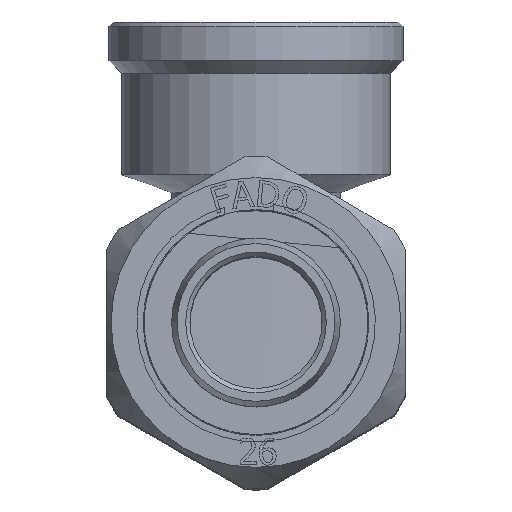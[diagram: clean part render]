
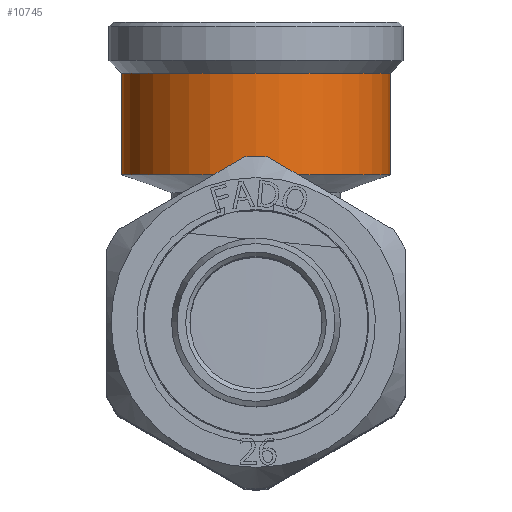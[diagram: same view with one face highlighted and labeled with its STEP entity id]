
A CAD part, top view. The second image highlights one B-rep face of the part: STEP entity #10745.
In plain terms, the highlighted cylindrical face has radius 15.75 mm (diameter 31.5 mm), a full revolution.
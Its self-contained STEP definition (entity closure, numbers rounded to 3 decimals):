
#1346=CYLINDRICAL_SURFACE('',#11478,15.75);
#1516=FACE_OUTER_BOUND('',#2133,.T.);
#2133=EDGE_LOOP('',(#7608,#7609,#7610,#7611,#7612,#7613));
#2878=LINE('',#14580,#3566);
#3566=VECTOR('',#12374,15.75);
#4138=CIRCLE('',#11476,15.75);
#4139=CIRCLE('',#11477,15.75);
#4140=CIRCLE('',#11479,15.75);
#4141=CIRCLE('',#11480,15.75);
#4528=VERTEX_POINT('',#14570);
#4529=VERTEX_POINT('',#14571);
#4530=VERTEX_POINT('',#14576);
#4531=VERTEX_POINT('',#14577);
#5739=EDGE_CURVE('',#4528,#4529,#4138,.T.);
#5740=EDGE_CURVE('',#4529,#4528,#4139,.T.);
#5742=EDGE_CURVE('',#4530,#4531,#4140,.T.);
#5743=EDGE_CURVE('',#4531,#4530,#4141,.T.);
#5744=EDGE_CURVE('',#4531,#4529,#2878,.T.);
#7608=ORIENTED_EDGE('',*,*,#5742,.F.);
#7609=ORIENTED_EDGE('',*,*,#5743,.F.);
#7610=ORIENTED_EDGE('',*,*,#5744,.T.);
#7611=ORIENTED_EDGE('',*,*,#5740,.T.);
#7612=ORIENTED_EDGE('',*,*,#5739,.T.);
#7613=ORIENTED_EDGE('',*,*,#5744,.F.);
#10745=ADVANCED_FACE('',(#1516),#1346,.T.);
#11476=AXIS2_PLACEMENT_3D('',#14572,#12363,#12364);
#11477=AXIS2_PLACEMENT_3D('',#14573,#12365,#12366);
#11478=AXIS2_PLACEMENT_3D('',#14575,#12368,#12369);
#11479=AXIS2_PLACEMENT_3D('',#14578,#12370,#12371);
#11480=AXIS2_PLACEMENT_3D('',#14579,#12372,#12373);
#12363=DIRECTION('center_axis',(0.,-1.,0.));
#12364=DIRECTION('ref_axis',(1.,0.,0.));
#12365=DIRECTION('center_axis',(0.,-1.,0.));
#12366=DIRECTION('ref_axis',(1.,0.,0.));
#12368=DIRECTION('center_axis',(0.,-1.,0.));
#12369=DIRECTION('ref_axis',(0.,0.,1.));
#12370=DIRECTION('center_axis',(0.,-1.,0.));
#12371=DIRECTION('ref_axis',(1.,0.,0.));
#12372=DIRECTION('center_axis',(0.,-1.,0.));
#12373=DIRECTION('ref_axis',(1.,0.,0.));
#12374=DIRECTION('',(0.,1.,0.));
#14570=CARTESIAN_POINT('',(0.,29.3,15.75));
#14571=CARTESIAN_POINT('',(0.,29.3,-15.75));
#14572=CARTESIAN_POINT('Origin',(0.,29.3,0.));
#14573=CARTESIAN_POINT('Origin',(0.,29.3,0.));
#14575=CARTESIAN_POINT('Origin',(0.,23.35,0.));
#14576=CARTESIAN_POINT('',(0.,17.4,15.75));
#14577=CARTESIAN_POINT('',(0.,17.4,-15.75));
#14578=CARTESIAN_POINT('Origin',(0.,17.4,0.));
#14579=CARTESIAN_POINT('Origin',(0.,17.4,0.));
#14580=CARTESIAN_POINT('',(0.,23.35,-15.75));
